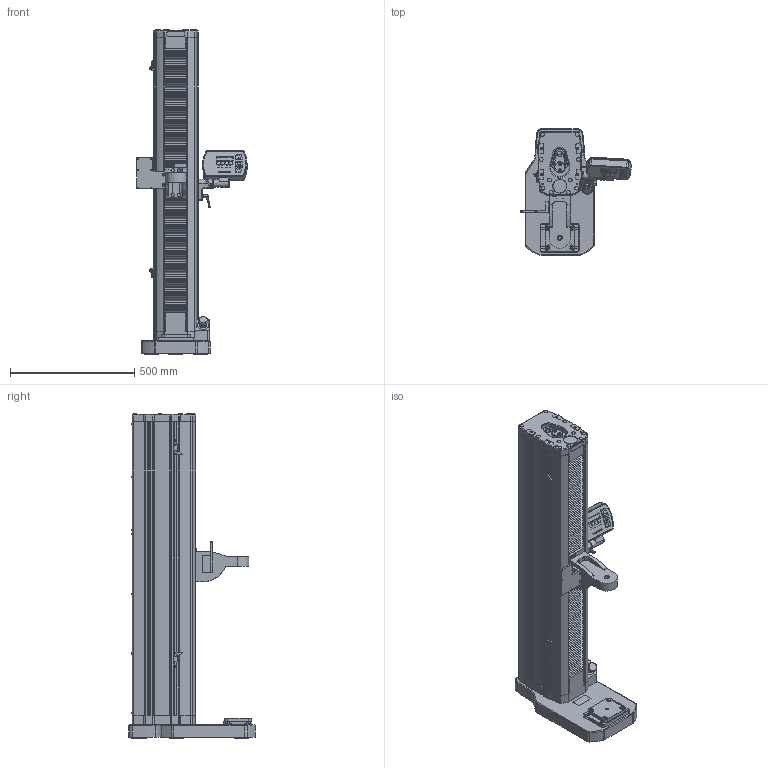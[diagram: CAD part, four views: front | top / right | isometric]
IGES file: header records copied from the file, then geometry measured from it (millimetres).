
Global section: file name: No Iges File Name specified; native system: Autodesk Inventor 2010; preprocessor: AutoDesk Inventor Iges Exporter R2010; author: mlampen; date: 20170419.115829; units: inch
Bounding box: 445 x 508 x 1305.45 mm (x, y, z)
Volume: 61074617.6 mm3; surface area: 2250417.6 mm2
Topology: 26 solids, 34 shells, 7160 faces, 18644 edges, 12015 vertices
Faces by surface type: plane 3541, bspline 1382, cylinder 964, revolution 939, cone 142, torus 140, sphere 52
Full cylindrical faces by diameter (mm): 2.02 x4, 2.845 x4, 5.172 x2, 6.35 x4
